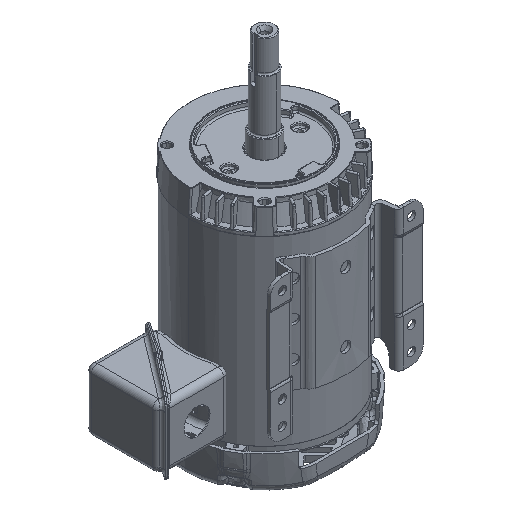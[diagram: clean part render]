
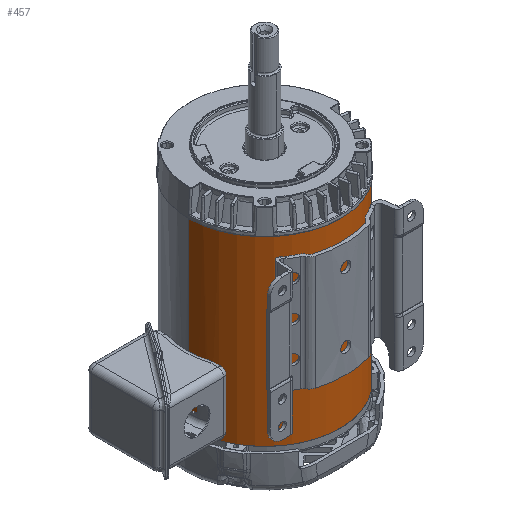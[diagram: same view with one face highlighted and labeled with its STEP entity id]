
A CAD part, isometric view. The second image highlights one B-rep face of the part: STEP entity #457.
In plain terms, the highlighted cylindrical face has radius 81.788 mm (diameter 163.576 mm), a partial arc.
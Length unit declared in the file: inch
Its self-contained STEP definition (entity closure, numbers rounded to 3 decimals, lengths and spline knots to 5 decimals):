
#17=CARTESIAN_POINT('',(0.,0.,-3.875));
#18=DIRECTION('',(0.,0.,1.));
#19=DIRECTION('',(-1.,0.,0.));
#20=AXIS2_PLACEMENT_3D('',#17,#18,#19);
#151=CARTESIAN_POINT('',(0.,0.,3.875));
#152=DIRECTION('',(0.,0.,1.));
#153=DIRECTION('',(-1.,0.,0.));
#154=AXIS2_PLACEMENT_3D('',#151,#152,#153);
#156=CARTESIAN_POINT('',(-3.22,0.,-2.6595));
#173=CARTESIAN_POINT('',(-3.22,0.,-1.9405));
#175=DIRECTION('',(0.,0.,1.));
#176=VECTOR('',#175,7.75);
#177=CARTESIAN_POINT('',(3.22,0.,-3.875));
#178=LINE('',#177,#176);
#207=CARTESIAN_POINT('',(-3.22,0.,-1.9405));
#208=CARTESIAN_POINT('',(-3.22,-0.02561,-1.9405));
#209=CARTESIAN_POINT('',(-3.2194,-0.07563,
-1.94584));
#210=CARTESIAN_POINT('',(-3.21683,-0.14847,
-1.9696));
#211=CARTESIAN_POINT('',(-3.21304,-0.21462,
-2.00828));
#212=CARTESIAN_POINT('',(-3.20873,-0.27082,
-2.05949));
#213=CARTESIAN_POINT('',(-3.20458,-0.31544,
-2.12204));
#214=CARTESIAN_POINT('',(-3.20142,-0.34566,
-2.19178));
#215=CARTESIAN_POINT('',(-3.19973,-0.36073,
-2.26746));
#216=CARTESIAN_POINT('',(-3.19986,-0.35958,
-2.34327));
#217=CARTESIAN_POINT('',(-3.20177,-0.34245,
-2.41778));
#218=CARTESIAN_POINT('',(-3.20503,-0.31092,
-2.48555));
#219=CARTESIAN_POINT('',(-3.20913,-0.26593,
-2.54571));
#220=CARTESIAN_POINT('',(-3.21332,-0.21019,
-2.59478));
#221=CARTESIAN_POINT('',(-3.21697,-0.14516,
-2.63173));
#222=CARTESIAN_POINT('',(-3.21943,-0.07387,
-2.65441));
#223=CARTESIAN_POINT('',(-3.22,-0.025,-2.6595));
#224=CARTESIAN_POINT('',(-3.22,0.,-2.6595));
#226=DIRECTION('',(0.,0.,1.));
#227=VECTOR('',#226,5.8155);
#228=CARTESIAN_POINT('',(-3.22,0.,-1.9405));
#229=LINE('',#228,#227);
#230=DIRECTION('',(0.,0.,1.));
#231=VECTOR('',#230,1.2155);
#232=CARTESIAN_POINT('',(-3.22,0.,-3.875));
#233=LINE('',#232,#231);
#234=CARTESIAN_POINT('',(-3.13847,-0.72,-3.1205));
#235=CARTESIAN_POINT('',(-3.14121,-0.70805,-3.1205));
#236=CARTESIAN_POINT('',(-3.14627,-0.6854,
-3.11684));
#237=CARTESIAN_POINT('',(-3.153,-0.65364,
-3.1007));
#238=CARTESIAN_POINT('',(-3.15801,-0.62891,
-3.0757));
#239=CARTESIAN_POINT('',(-3.1611,-0.61311,
-3.04453));
#240=CARTESIAN_POINT('',(-3.16213,-0.6077,
-3.0099));
#241=CARTESIAN_POINT('',(-3.1611,-0.61307,
-2.97561));
#242=CARTESIAN_POINT('',(-3.15799,-0.629,
-2.94417));
#243=CARTESIAN_POINT('',(-3.15302,-0.65359,
-2.91935));
#244=CARTESIAN_POINT('',(-3.14626,-0.68545,
-2.90313));
#245=CARTESIAN_POINT('',(-3.14121,-0.70807,-2.8995));
#246=CARTESIAN_POINT('',(-3.13847,-0.72,-2.8995));
#248=CARTESIAN_POINT('',(-3.13847,-0.72,-2.8995));
#249=CARTESIAN_POINT('',(-3.13572,-0.73199,-2.8995));
#250=CARTESIAN_POINT('',(-3.13038,-0.75468,
-2.90317));
#251=CARTESIAN_POINT('',(-3.1225,-0.78657,
-2.91943));
#252=CARTESIAN_POINT('',(-3.11615,-0.81127,
-2.94457));
#253=CARTESIAN_POINT('',(-3.11201,-0.82693,
-2.97568));
#254=CARTESIAN_POINT('',(-3.11058,-0.83227,
-3.01009));
#255=CARTESIAN_POINT('',(-3.112,-0.82698,
-3.04416));
#256=CARTESIAN_POINT('',(-3.11617,-0.8112,
-3.07555));
#257=CARTESIAN_POINT('',(-3.12248,-0.78666,
-3.10048));
#258=CARTESIAN_POINT('',(-3.13038,-0.75466,
-3.11685));
#259=CARTESIAN_POINT('',(-3.13572,-0.73198,-3.1205));
#260=CARTESIAN_POINT('',(-3.13847,-0.72,-3.1205));
#282=CARTESIAN_POINT('',(3.22,0.,-3.875));
#283=CARTESIAN_POINT('',(-3.22,0.,-3.875));
#284=VERTEX_POINT('',#282);
#285=VERTEX_POINT('',#283);
#290=CARTESIAN_POINT('',(3.22,0.,3.875));
#291=CARTESIAN_POINT('',(-3.22,0.,3.875));
#292=VERTEX_POINT('',#290);
#293=VERTEX_POINT('',#291);
#300=VERTEX_POINT('',#156);
#301=VERTEX_POINT('',#173);
#304=VERTEX_POINT('',#234);
#305=VERTEX_POINT('',#246);
#438=CARTESIAN_POINT('',(0.,0.,-3.875));
#439=DIRECTION('',(0.,0.,1.));
#440=DIRECTION('',(1.,0.,0.));
#441=AXIS2_PLACEMENT_3D('',#438,#439,#440);
#442=CYLINDRICAL_SURFACE('',#441,3.22);
#443=ORIENTED_EDGE('',*,*,#357,.F.);
#444=ORIENTED_EDGE('',*,*,#427,.T.);
#445=ORIENTED_EDGE('',*,*,#406,.T.);
#446=ORIENTED_EDGE('',*,*,#424,.F.);
#447=ORIENTED_EDGE('',*,*,#313,.F.);
#448=ORIENTED_EDGE('',*,*,#421,.T.);
#449=EDGE_LOOP('',(#443,#444,#445,#446,#447,#448));
#450=FACE_OUTER_BOUND('',#449,.F.);
#452=ORIENTED_EDGE('',*,*,#451,.F.);
#454=ORIENTED_EDGE('',*,*,#453,.F.);
#455=EDGE_LOOP('',(#452,#454));
#456=FACE_BOUND('',#455,.F.);
#457=ADVANCED_FACE('',(#450,#456),#442,.T.);
#21=CIRCLE('',#20,3.22);
#155=CIRCLE('',#154,3.22);
#225=B_SPLINE_CURVE_WITH_KNOTS('',3,(#207,#208,#209,#210,#211,#212,#213,#214,
#215,#216,#217,#218,#219,#220,#221,#222,#223,#224),.UNSPECIFIED.,.F.,.F.,(4,1,1,
1,1,1,1,1,1,1,1,1,1,1,1,4),(0.,0.06667,0.13333,0.2,
0.26667,0.33333,0.4,0.46667,0.53333,
0.6,0.66667,0.73333,0.8,0.86667,
0.93333,1.),.UNSPECIFIED.);
#247=B_SPLINE_CURVE_WITH_KNOTS('',3,(#234,#235,#236,#237,#238,#239,#240,#241,
#242,#243,#244,#245,#246),.UNSPECIFIED.,.F.,.F.,(4,1,1,1,1,1,1,1,1,1,4),(0.,
0.1,0.2,0.3,0.4,0.5,0.6,0.7,0.8,0.9,1.),.UNSPECIFIED.);
#261=B_SPLINE_CURVE_WITH_KNOTS('',3,(#248,#249,#250,#251,#252,#253,#254,#255,
#256,#257,#258,#259,#260),.UNSPECIFIED.,.F.,.F.,(4,1,1,1,1,1,1,1,1,1,4),(0.,
0.1,0.2,0.3,0.4,0.5,0.6,0.7,0.8,0.9,1.),.UNSPECIFIED.);
#313=EDGE_CURVE('',#285,#284,#21,.T.);
#357=EDGE_CURVE('',#301,#300,#225,.T.);
#406=EDGE_CURVE('',#293,#292,#155,.T.);
#421=EDGE_CURVE('',#285,#300,#233,.T.);
#424=EDGE_CURVE('',#284,#292,#178,.T.);
#427=EDGE_CURVE('',#301,#293,#229,.T.);
#451=EDGE_CURVE('',#304,#305,#247,.T.);
#453=EDGE_CURVE('',#305,#304,#261,.T.);
